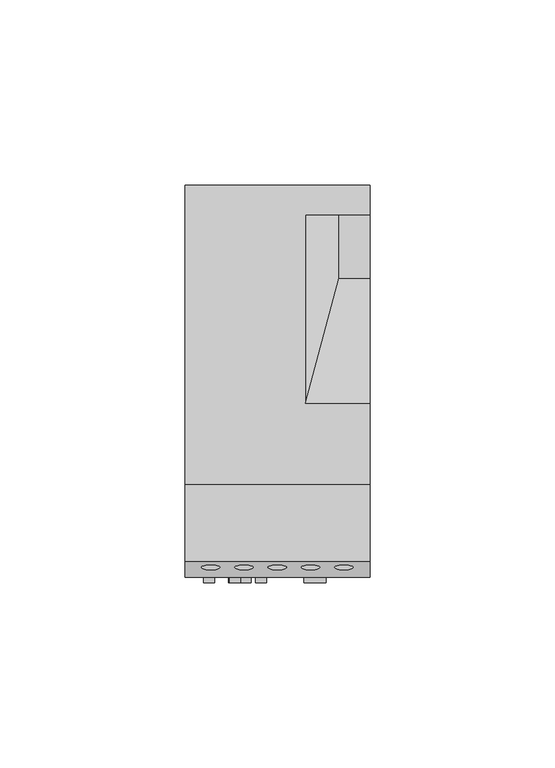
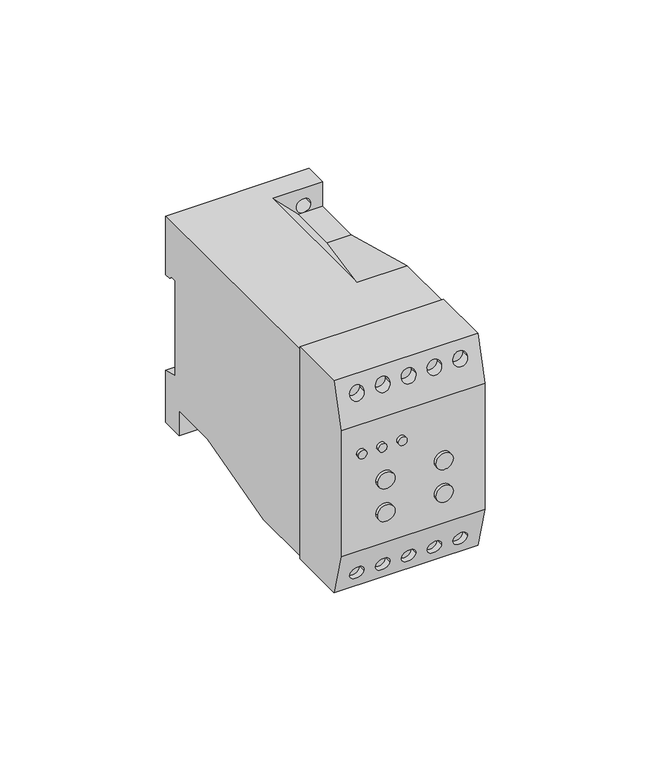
"""IFC4 building model written with IfcOpenShell, lengths in millimetres: proxy geometry, TDM_РЕЛЕ КОНТРОЛЯ ФАЗ СЕРИИ ЕЛ-11М : 3х380 В (1нр+1нз-контакты)."""

from ifc_helpers import new_model, si_unit, point, frame, frame_2d, origin, place, context, project, spatial, polyline, circle_curve, ellipse_curve, trimmed, segment, composite_curve, outline, extrude, source, transform, mapped, element, save
from ifc_brep_helpers import plane_surface, revolved_surface, advanced_brep


def electrical_equipment_a8593c03(model_context):
    return source(origin(), model_context, "Body", "SolidModel", [
        advanced_brep(
        [(25.0, -51.2650756, 39.0), (25.0, -55.5, 23.1950468), (25.0, -55.5, -23.1950468), (25.0, -51.2650756, -39.0), (25.0, -30.5, -39.0), (25.0, -30.5, 39.0), (-25.0, -51.2650756, 39.0), (-25.0, -30.5, 39.0), (-25.0, -30.5, -39.0), (-25.0, -51.2650756, -39.0), (-25.0, -55.5, -23.1950468), (-25.0, -55.5, 23.1950468), (2.5, -52.8552555, 33.0653679), (-2.5, -52.8552555, 33.0653679), (11.5, -52.8552555, 33.0653679), (6.5, -52.8552555, 33.0653679), (20.5, -52.8552555, 33.0653679), (15.5, -52.8552555, 33.0653679), (-11.5, -52.8552555, 33.0653679), (-6.5, -52.8552555, 33.0653679), (-20.5, -52.8552555, 33.0653679), (-15.5, -52.8552555, 33.0653679), (2.5, -52.8552555, -33.0653679), (-2.5, -52.8552555, -33.0653679), (11.5, -52.8552555, -33.0653679), (6.5, -52.8552555, -33.0653679), (20.5, -52.8552555, -33.0653679), (15.5, -52.8552555, -33.0653679), (-11.5, -52.8552555, -33.0653679), (-6.5, -52.8552555, -33.0653679), (-20.5, -52.8552555, -33.0653679), (-15.5, -52.8552555, -33.0653679), (-2.5, -49.1118547, -33.0653679), (2.5, -49.1118547, -33.0653679), (-2.5, -49.1118547, 33.0653679), (2.5, -49.1118547, 33.0653679), (6.5, -49.1118547, -33.0653679), (11.5, -49.1118547, -33.0653679), (6.5, -49.1118547, 33.0653679), (11.5, -49.1118547, 33.0653679), (15.5, -49.1118547, -33.0653679), (20.5, -49.1118547, -33.0653679), (15.5, -49.1118547, 33.0653679), (20.5, -49.1118547, 33.0653679), (-6.5, -49.1118547, -33.0653679), (-11.5, -49.1118547, -33.0653679), (-6.5, -49.1118547, 33.0653679), (-11.5, -49.1118547, 33.0653679), (-15.5, -49.1118547, -33.0653679), (-20.5, -49.1118547, -33.0653679), (-15.5, -49.1118547, 33.0653679), (-20.5, -49.1118547, 33.0653679)],
        [
            (0, 1),
            (1, 2),
            (2, 3),
            (3, 4),
            (4, 5),
            (5, 0),
            (6, 7),
            (7, 8),
            (8, 9),
            (9, 10),
            (10, 11),
            (11, 6),
            (0, 6),
            (11, 1),
            (12, 13, ellipse_curve(frame((0.0, -52.8552555, 33.0653679), z_axis=(0.0, 0.9659258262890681, -0.2588190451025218), x_axis=(0.0, -0.25881904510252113, -0.9659258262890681)), 2.5881905, 2.5)),
            (13, 12, ellipse_curve(frame((0.0, -52.8552555, 33.0653679), z_axis=(0.0, 0.9659258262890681, -0.2588190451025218), x_axis=(0.0, -0.25881904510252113, -0.9659258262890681)), 2.5881905, 2.5)),
            (14, 15, ellipse_curve(frame((9.0, -52.8552555, 33.0653679), z_axis=(0.0, 0.9659258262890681, -0.2588190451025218), x_axis=(0.0, -0.25881904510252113, -0.9659258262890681)), 2.5881905, 2.5)),
            (15, 14, ellipse_curve(frame((9.0, -52.8552555, 33.0653679), z_axis=(0.0, 0.9659258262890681, -0.2588190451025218), x_axis=(0.0, -0.25881904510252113, -0.9659258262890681)), 2.5881905, 2.5)),
            (16, 17, ellipse_curve(frame((18.0, -52.8552555, 33.0653679), z_axis=(0.0, 0.9659258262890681, -0.2588190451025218), x_axis=(0.0, -0.25881904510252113, -0.9659258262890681)), 2.5881905, 2.5)),
            (17, 16, ellipse_curve(frame((18.0, -52.8552555, 33.0653679), z_axis=(0.0, 0.9659258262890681, -0.2588190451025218), x_axis=(0.0, -0.25881904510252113, -0.9659258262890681)), 2.5881905, 2.5)),
            (18, 19, ellipse_curve(frame((-9.0, -52.8552555, 33.0653679), z_axis=(0.0, 0.9659258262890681, -0.2588190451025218), x_axis=(0.0, -0.25881904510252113, -0.9659258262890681)), 2.5881905, 2.5)),
            (19, 18, ellipse_curve(frame((-9.0, -52.8552555, 33.0653679), z_axis=(0.0, 0.9659258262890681, -0.2588190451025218), x_axis=(0.0, -0.25881904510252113, -0.9659258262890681)), 2.5881905, 2.5)),
            (20, 21, ellipse_curve(frame((-18.0, -52.8552555, 33.0653679), z_axis=(0.0, 0.9659258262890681, -0.2588190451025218), x_axis=(0.0, -0.25881904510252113, -0.9659258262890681)), 2.5881905, 2.5)),
            (21, 20, ellipse_curve(frame((-18.0, -52.8552555, 33.0653679), z_axis=(0.0, 0.9659258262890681, -0.2588190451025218), x_axis=(0.0, -0.25881904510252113, -0.9659258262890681)), 2.5881905, 2.5)),
            (10, 2),
            (9, 3),
            (22, 23, ellipse_curve(frame((0.0, -52.8552555, -33.0653679), z_axis=(0.0, 0.9659258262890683, 0.25881904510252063), x_axis=(0.0, -0.2588190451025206, 0.9659258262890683)), 2.5881905, 2.5)),
            (23, 22, ellipse_curve(frame((0.0, -52.8552555, -33.0653679), z_axis=(0.0, 0.9659258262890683, 0.25881904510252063), x_axis=(0.0, -0.2588190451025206, 0.9659258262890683)), 2.5881905, 2.5)),
            (24, 25, ellipse_curve(frame((9.0, -52.8552555, -33.0653679), z_axis=(0.0, 0.9659258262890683, 0.25881904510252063), x_axis=(0.0, -0.2588190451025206, 0.9659258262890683)), 2.5881905, 2.5)),
            (25, 24, ellipse_curve(frame((9.0, -52.8552555, -33.0653679), z_axis=(0.0, 0.9659258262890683, 0.25881904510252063), x_axis=(0.0, -0.2588190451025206, 0.9659258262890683)), 2.5881905, 2.5)),
            (26, 27, ellipse_curve(frame((18.0, -52.8552555, -33.0653679), z_axis=(0.0, 0.9659258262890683, 0.25881904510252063), x_axis=(0.0, -0.2588190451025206, 0.9659258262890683)), 2.5881905, 2.5)),
            (27, 26, ellipse_curve(frame((18.0, -52.8552555, -33.0653679), z_axis=(0.0, 0.9659258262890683, 0.25881904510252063), x_axis=(0.0, -0.2588190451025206, 0.9659258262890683)), 2.5881905, 2.5)),
            (28, 29, ellipse_curve(frame((-9.0, -52.8552555, -33.0653679), z_axis=(0.0, 0.9659258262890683, 0.25881904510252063), x_axis=(0.0, -0.2588190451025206, 0.9659258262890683)), 2.5881905, 2.5)),
            (29, 28, ellipse_curve(frame((-9.0, -52.8552555, -33.0653679), z_axis=(0.0, 0.9659258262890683, 0.25881904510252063), x_axis=(0.0, -0.2588190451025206, 0.9659258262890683)), 2.5881905, 2.5)),
            (30, 31, ellipse_curve(frame((-18.0, -52.8552555, -33.0653679), z_axis=(0.0, 0.9659258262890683, 0.25881904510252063), x_axis=(0.0, -0.2588190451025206, 0.9659258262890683)), 2.5881905, 2.5)),
            (31, 30, ellipse_curve(frame((-18.0, -52.8552555, -33.0653679), z_axis=(0.0, 0.9659258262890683, 0.25881904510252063), x_axis=(0.0, -0.2588190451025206, 0.9659258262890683)), 2.5881905, 2.5)),
            (8, 4),
            (7, 5),
            (32, 33, circle_curve(frame((0.0, -49.1118547, -33.0653679), z_axis=(0.0, -1.0, 0.0), x_axis=(1.0, 0.0, 0.0)), 2.5)),
            (33, 32, circle_curve(frame((0.0, -49.1118547, -33.0653679), z_axis=(0.0, -1.0, 0.0), x_axis=(1.0, 0.0, 0.0)), 2.5)),
            (34, 35, circle_curve(frame((0.0, -49.1118547, 33.0653679), z_axis=(0.0, -1.0, 0.0), x_axis=(1.0, 0.0, 0.0)), 2.5)),
            (35, 34, circle_curve(frame((0.0, -49.1118547, 33.0653679), z_axis=(0.0, -1.0, 0.0), x_axis=(1.0, 0.0, 0.0)), 2.5)),
            (36, 37, circle_curve(frame((9.0, -49.1118547, -33.0653679), z_axis=(0.0, -1.0, 0.0), x_axis=(1.0, 0.0, 0.0)), 2.5)),
            (37, 36, circle_curve(frame((9.0, -49.1118547, -33.0653679), z_axis=(0.0, -1.0, 0.0), x_axis=(1.0, 0.0, 0.0)), 2.5)),
            (38, 39, circle_curve(frame((9.0, -49.1118547, 33.0653679), z_axis=(0.0, -1.0, 0.0), x_axis=(1.0, 0.0, 0.0)), 2.5)),
            (39, 38, circle_curve(frame((9.0, -49.1118547, 33.0653679), z_axis=(0.0, -1.0, 0.0), x_axis=(1.0, 0.0, 0.0)), 2.5)),
            (40, 41, circle_curve(frame((18.0, -49.1118547, -33.0653679), z_axis=(0.0, -1.0, 0.0), x_axis=(1.0, 0.0, 0.0)), 2.5)),
            (41, 40, circle_curve(frame((18.0, -49.1118547, -33.0653679), z_axis=(0.0, -1.0, 0.0), x_axis=(1.0, 0.0, 0.0)), 2.5)),
            (42, 43, circle_curve(frame((18.0, -49.1118547, 33.0653679), z_axis=(0.0, -1.0, 0.0), x_axis=(1.0, 0.0, 0.0)), 2.5)),
            (43, 42, circle_curve(frame((18.0, -49.1118547, 33.0653679), z_axis=(0.0, -1.0, 0.0), x_axis=(1.0, 0.0, 0.0)), 2.5)),
            (44, 45, circle_curve(frame((-9.0, -49.1118547, -33.0653679), z_axis=(0.0, -1.0, 0.0), x_axis=(-1.0, 0.0, 0.0)), 2.5)),
            (45, 44, circle_curve(frame((-9.0, -49.1118547, -33.0653679), z_axis=(0.0, -1.0, 0.0), x_axis=(-1.0, 0.0, 0.0)), 2.5)),
            (46, 47, circle_curve(frame((-9.0, -49.1118547, 33.0653679), z_axis=(0.0, -1.0, 0.0), x_axis=(-1.0, 0.0, 0.0)), 2.5)),
            (47, 46, circle_curve(frame((-9.0, -49.1118547, 33.0653679), z_axis=(0.0, -1.0, 0.0), x_axis=(-1.0, 0.0, 0.0)), 2.5)),
            (48, 49, circle_curve(frame((-18.0, -49.1118547, -33.0653679), z_axis=(0.0, -1.0, 0.0), x_axis=(-1.0, 0.0, 0.0)), 2.5)),
            (49, 48, circle_curve(frame((-18.0, -49.1118547, -33.0653679), z_axis=(0.0, -1.0, 0.0), x_axis=(-1.0, 0.0, 0.0)), 2.5)),
            (50, 51, circle_curve(frame((-18.0, -49.1118547, 33.0653679), z_axis=(0.0, -1.0, 0.0), x_axis=(-1.0, 0.0, 0.0)), 2.5)),
            (51, 50, circle_curve(frame((-18.0, -49.1118547, 33.0653679), z_axis=(0.0, -1.0, 0.0), x_axis=(-1.0, 0.0, 0.0)), 2.5)),
            (32, 23),
            (22, 33),
            (34, 13),
            (12, 35),
            (36, 25),
            (24, 37),
            (38, 15),
            (14, 39),
            (40, 27),
            (26, 41),
            (42, 17),
            (16, 43),
            (44, 29),
            (28, 45),
            (46, 19),
            (18, 47),
            (48, 31),
            (30, 49),
            (50, 21),
            (20, 51),
        ],
        [
            plane_surface(frame((25.0, -51.2650756, 39.0), z_axis=(1.0000000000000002, 0.0, 0.0), x_axis=(0.0, -0.2588190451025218, -0.9659258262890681))),
            plane_surface(frame((-25.0, -51.2650756, 39.0), z_axis=(-1.0000000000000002, 0.0, 0.0), x_axis=(0.0, 0.2588190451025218, 0.9659258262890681))),
            plane_surface(frame((25.0, -51.2650756, 39.0), z_axis=(0.0, -0.9659258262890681, 0.2588190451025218), x_axis=(-1.0, 0.0, 0.0))),
            plane_surface(frame((25.0, -55.5, 23.1950468), z_axis=(0.0, -1.0, 0.0), x_axis=(-1.0, 0.0, 0.0))),
            plane_surface(frame((25.0, -55.5, -23.1950468), z_axis=(0.0, -0.9659258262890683, -0.25881904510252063), x_axis=(-1.0, 0.0, 0.0))),
            plane_surface(frame((25.0, -51.2650756, -39.0), z_axis=(0.0, 0.0, -1.0), x_axis=(-1.0, 0.0, 0.0))),
            plane_surface(frame((25.0, -30.5, -39.0), z_axis=(0.0, 1.0, 0.0), x_axis=(-1.0, 0.0, 0.0))),
            plane_surface(frame((25.0, -30.5, 39.0), z_axis=(0.0, 0.0, 1.0), x_axis=(-1.0, 0.0, 0.0))),
            plane_surface(frame((2.5, -49.1118547, -33.0653679), z_axis=(0.0, -1.0, 0.0), x_axis=(0.0, 0.0, -1.0))),
            revolved_surface(polyline([(2.5, -53.525128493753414, -33.0653679), (2.5, -49.1118547, -33.0653679)]), (0.0, -49.1118547, -33.0653679), (0.0, -1.0, 0.0)),
            revolved_surface(polyline([(2.5, -53.525128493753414, 33.0653679), (2.5, -49.1118547, 33.0653679)]), (0.0, 0.0, 33.0653679), (0.0, -1.0, 0.0)),
            revolved_surface(polyline([(11.5, -53.525128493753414, -33.0653679), (11.5, -49.1118547, -33.0653679)]), (9.0, 0.0, -33.0653679), (0.0, -1.0, 0.0)),
            revolved_surface(polyline([(11.5, -53.525128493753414, 33.0653679), (11.5, -49.1118547, 33.0653679)]), (9.0, 0.0, 33.0653679), (0.0, -1.0, 0.0)),
            revolved_surface(polyline([(20.5, -53.525128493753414, -33.0653679), (20.5, -49.1118547, -33.0653679)]), (18.0, 0.0, -33.0653679), (0.0, -1.0, 0.0)),
            revolved_surface(polyline([(20.5, -53.525128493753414, 33.0653679), (20.5, -49.1118547, 33.0653679)]), (18.0, 0.0, 33.0653679), (0.0, -1.0, 0.0)),
            revolved_surface(polyline([(-11.5, -53.525128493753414, -33.0653679), (-11.5, -49.1118547, -33.0653679)]), (-9.0, 0.0, -33.0653679), (0.0, -1.0, 0.0)),
            revolved_surface(polyline([(-11.5, -53.525128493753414, 33.0653679), (-11.5, -49.1118547, 33.0653679)]), (-9.0, 0.0, 33.0653679), (0.0, -1.0, 0.0)),
            revolved_surface(polyline([(-20.5, -53.525128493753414, -33.0653679), (-20.5, -49.1118547, -33.0653679)]), (-18.0, 0.0, -33.0653679), (0.0, -1.0, 0.0)),
            revolved_surface(polyline([(-20.5, -53.525128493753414, 33.0653679), (-20.5, -49.1118547, 33.0653679)]), (-18.0, 0.0, 33.0653679), (0.0, -1.0, 0.0)),
        ],
        [
            (0, [[1, 2, 3, 4, 5, 6]]),
            (1, [[7, 8, 9, 10, 11, 12]]),
            (2, [[-1, 13, -12, 14], [15, 16], [17, 18], [19, 20], [21, 22], [23, 24]]),
            (3, [[-2, -14, -11, 25]]),
            (4, [[-3, -25, -10, 26], [27, 28], [29, 30], [31, 32], [33, 34], [35, 36]]),
            (5, [[-4, -26, -9, 37]]),
            (6, [[-5, -37, -8, 38]]),
            (7, [[-6, -38, -7, -13]]),
            (8, [[39, 40]]),
            (8, [[41, 42]]),
            (8, [[43, 44]]),
            (8, [[45, 46]]),
            (8, [[47, 48]]),
            (8, [[49, 50]]),
            (8, [[51, 52]]),
            (8, [[53, 54]]),
            (8, [[55, 56]]),
            (8, [[57, 58]]),
            (9, [[-39, 59, -27, 60]]),
            (9, [[-40, -60, -28, -59]]),
            (10, [[-41, 61, -15, 62]]),
            (10, [[-42, -62, -16, -61]]),
            (11, [[-43, 63, -29, 64]]),
            (11, [[-44, -64, -30, -63]]),
            (12, [[-45, 65, -17, 66]]),
            (12, [[-46, -66, -18, -65]]),
            (13, [[-47, 67, -31, 68]]),
            (13, [[-48, -68, -32, -67]]),
            (14, [[-49, 69, -19, 70]]),
            (14, [[-50, -70, -20, -69]]),
            (15, [[-51, 71, -33, 72]]),
            (15, [[-52, -72, -34, -71]]),
            (16, [[-53, 73, -21, 74]]),
            (16, [[-54, -74, -22, -73]]),
            (17, [[-55, 75, -35, 76]]),
            (17, [[-56, -76, -36, -75]]),
            (18, [[-57, 77, -23, 78]]),
            (18, [[-58, -78, -24, -77]]),
        ],
    ),
        extrude(outline(polyline([(24.0, -40.0), (24.0, -50.5032876), (-24.0, -50.5032876), (-24.0, -40.0), (24.0, -40.0)])), frame((0.0, 0.0, -38.0), z_axis=(0.0, 0.0, 1.0), x_axis=(1.0, 0.0, 0.0)), (0.0, 0.0, 1.0), 76.0),
        advanced_brep(
        [(25.0, 42.5, 28.9336155), (25.0, 25.3071204, 28.9336155), (25.0, -8.5290871, 38.0), (25.0, -30.5, 38.0), (25.0, -30.5, -38.0), (25.0, 50.5, -38.0), (25.0, 50.5, -18.8314414), (25.0, 44.7632568, -17.2942857), (25.0, 44.7632568, 17.7057143), (25.0, 46.8853336, 17.7057143), (25.0, 48.2016607, 16.3893872), (25.0, 50.5, 16.3893872), (25.0, 50.5, 38.0), (25.0, 42.5, 38.0), (-25.0, 50.5, 38.0), (-25.0, 50.5, 16.3893872), (-25.0, 48.2016607, 16.3893872), (-25.0, 46.8853336, 17.7057143), (-25.0, 44.7632568, 17.7057143), (-25.0, 44.7632568, -17.2942857), (-25.0, 50.5, -18.8314414), (-25.0, 50.5, -38.0), (-25.0, 42.5, -38.0), (-25.0, 42.5, -28.9336155), (-25.0, 25.3071204, -28.9336155), (-25.0, -8.5290871, -38.0), (-25.0, -30.5, -38.0), (-25.0, -30.5, 38.0), (16.6624279, 42.5, 28.9336155), (16.6624279, 25.3071204, 28.9336155), (7.5960434, -8.5290871, 38.0), (7.5960434, 42.5, 38.0), (-7.3989842, -8.5290871, -38.0), (-7.3989842, 42.5, -38.0), (-15.9384302, 50.5, -31.5), (-20.9384302, 50.5, -31.5), (15.9384302, 50.5, 31.5), (20.9384302, 50.5, 31.5), (20.9384302, 42.5, 31.5), (15.9384302, 42.5, 31.5), (-16.4653687, 25.3071204, -28.9336155), (-16.4653687, 42.5, -28.9336155), (-20.9384302, 42.5, -31.5), (-15.9384302, 42.5, -31.5)],
        [
            (0, 1),
            (1, 2),
            (2, 3),
            (3, 4),
            (4, 5),
            (5, 6),
            (6, 7),
            (7, 8),
            (8, 9),
            (9, 10),
            (10, 11),
            (11, 12),
            (12, 13),
            (13, 0),
            (14, 15),
            (15, 16),
            (16, 17),
            (17, 18),
            (18, 19),
            (19, 20),
            (20, 21),
            (21, 22),
            (22, 23),
            (23, 24),
            (24, 25),
            (25, 26),
            (26, 27),
            (27, 14),
            (0, 28),
            (28, 29),
            (29, 1),
            (29, 30),
            (30, 2),
            (30, 31),
            (31, 13),
            (12, 14),
            (27, 3),
            (26, 4),
            (21, 5),
            (25, 32),
            (32, 33),
            (33, 22),
            (20, 6),
            (34, 35, circle_curve(frame((-18.4384302, 50.5, -31.5), z_axis=(0.0, -1.0, 0.0), x_axis=(-1.0, 0.0, 0.0)), 2.5)),
            (35, 34, circle_curve(frame((-18.4384302, 50.5, -31.5), z_axis=(0.0, -1.0, 0.0), x_axis=(-1.0, 0.0, 0.0)), 2.5)),
            (19, 7),
            (18, 8),
            (17, 9),
            (16, 10),
            (15, 11),
            (36, 37, circle_curve(frame((18.4384302, 50.5, 31.5), z_axis=(0.0, -1.0, 0.0), x_axis=(1.0, 0.0, 0.0)), 2.5)),
            (37, 36, circle_curve(frame((18.4384302, 50.5, 31.5), z_axis=(0.0, -1.0, 0.0), x_axis=(1.0, 0.0, 0.0)), 2.5)),
            (31, 28),
            (38, 39, circle_curve(frame((18.4384302, 42.5, 31.5), z_axis=(0.0, 1.0, 0.0), x_axis=(1.0, 0.0, 0.0)), 2.5)),
            (39, 38, circle_curve(frame((18.4384302, 42.5, 31.5), z_axis=(0.0, 1.0, 0.0), x_axis=(1.0, 0.0, 0.0)), 2.5)),
            (24, 40),
            (40, 32),
            (23, 41),
            (41, 40),
            (33, 41),
            (42, 43, circle_curve(frame((-18.4384302, 42.5, -31.5), z_axis=(0.0, 1.0, 0.0), x_axis=(-1.0, 0.0, 0.0)), 2.5)),
            (43, 42, circle_curve(frame((-18.4384302, 42.5, -31.5), z_axis=(0.0, 1.0, 0.0), x_axis=(-1.0, 0.0, 0.0)), 2.5)),
            (38, 37),
            (36, 39),
            (42, 35),
            (34, 43),
        ],
        [
            plane_surface(frame((25.0, 42.5, 28.9336155), z_axis=(1.0, 0.0, 0.0), x_axis=(0.0, -1.0, 0.0))),
            plane_surface(frame((-25.0, 42.5, 28.9336155), z_axis=(-1.0, 0.0, 0.0), x_axis=(0.0, 1.0, 0.0))),
            plane_surface(frame((25.0, 42.5, 28.9336155), z_axis=(0.0, 0.0, 1.0), x_axis=(-1.0, 0.0, 0.0))),
            plane_surface(frame((25.0, 25.3071204, 28.9336155), z_axis=(0.0, 0.258819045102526, 0.9659258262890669), x_axis=(-1.0, 0.0, 0.0))),
            plane_surface(frame((25.0, -8.5290871, 38.0), z_axis=(0.0, 0.0, 1.0), x_axis=(-1.0, 0.0, 0.0))),
            plane_surface(frame((25.0, -30.5, 38.0), z_axis=(0.0, -1.0, 0.0), x_axis=(-1.0, 0.0, 0.0))),
            plane_surface(frame((25.0, -30.5, -38.0), z_axis=(0.0, 0.0, -1.0), x_axis=(-1.0, 0.0, 0.0))),
            plane_surface(frame((25.0, 50.5, -38.0), z_axis=(0.0, 1.0, 0.0), x_axis=(-1.0, 0.0, 0.0))),
            plane_surface(frame((25.0, 50.5, -18.8314414), z_axis=(0.0, 0.25881904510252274, 0.9659258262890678), x_axis=(-1.0, 0.0, 0.0))),
            plane_surface(frame((25.0, 44.7632568, -17.2942857), z_axis=(0.0, 1.0, 0.0), x_axis=(-1.0, 0.0, 0.0))),
            plane_surface(frame((25.0, 44.7632568, 17.7057143), z_axis=(0.0, 0.0, -1.0), x_axis=(-1.0, 0.0, 0.0))),
            plane_surface(frame((25.0, 46.8853336, 17.7057143), z_axis=(0.0, -0.7071067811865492, -0.7071067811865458), x_axis=(-1.0, 0.0, 0.0))),
            plane_surface(frame((25.0, 48.2016607, 16.3893872), z_axis=(0.0, 0.0, -1.0), x_axis=(-1.0, 0.0, 0.0))),
            plane_surface(frame((25.0, 50.5, 16.3893872), z_axis=(0.0, 1.0, 0.0), x_axis=(-1.0, 0.0, 0.0))),
            plane_surface(frame((25.0, 42.5, 38.0), z_axis=(0.0, -1.0, 0.0), x_axis=(-1.0, 0.0, 0.0))),
            plane_surface(frame((25.0, -8.5290871, -38.0), z_axis=(0.0, 0.2588190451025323, -0.9659258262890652), x_axis=(-1.0, 0.0, 0.0))),
            plane_surface(frame((25.0, 25.3071204, -28.9336155), z_axis=(0.0, 0.0, -1.0), x_axis=(-1.0, 0.0, 0.0))),
            plane_surface(frame((25.0, 42.5, -28.9336155), z_axis=(0.0, -1.0, 0.0), x_axis=(-1.0, 0.0, 0.0))),
            plane_surface(frame((25.0, -20.058113, 20.5960434), z_axis=(0.7071067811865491, 0.0, 0.7071067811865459), x_axis=(0.0, 1.0, 0.0))),
            plane_surface(frame((-25.0, -20.058113, -20.3989842), z_axis=(-0.7071067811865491, 0.0, -0.707106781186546), x_axis=(0.0, 1.0, 0.0))),
            revolved_surface(polyline([(20.9384302, 42.5, 31.5), (20.9384302, 50.5, 31.5)]), (18.4384302, 50.5, 31.5), (0.0, -1.0, 0.0)),
            revolved_surface(polyline([(-20.9384302, 42.5, -31.5), (-20.9384302, 50.5, -31.5)]), (-18.4384302, 0.0, -31.5), (0.0, -1.0, 0.0)),
        ],
        [
            (0, [[1, 2, 3, 4, 5, 6, 7, 8, 9, 10, 11, 12, 13, 14]]),
            (1, [[15, 16, 17, 18, 19, 20, 21, 22, 23, 24, 25, 26, 27, 28]]),
            (2, [[-1, 29, 30, 31]]),
            (3, [[-2, -31, 32, 33]]),
            (4, [[-3, -33, 34, 35, -13, 36, -28, 37]]),
            (5, [[-4, -37, -27, 38]]),
            (6, [[-22, 39, -5, -38, -26, 40, 41, 42]]),
            (7, [[-6, -39, -21, 43], [44, 45]]),
            (8, [[-7, -43, -20, 46]]),
            (9, [[-8, -46, -19, 47]]),
            (10, [[-9, -47, -18, 48]]),
            (11, [[-10, -48, -17, 49]]),
            (12, [[-11, -49, -16, 50]]),
            (13, [[-12, -50, -15, -36], [51, 52]]),
            (14, [[-14, -35, 53, -29], [54, 55]]),
            (15, [[-25, 56, 57, -40]]),
            (16, [[-24, 58, 59, -56]]),
            (17, [[-23, -42, 60, -58], [61, 62]]),
            (18, [[-34, -32, -30, -53]]),
            (19, [[-41, -57, -59, -60]]),
            (20, [[63, -51, 64, -54]]),
            (20, [[-63, -55, -64, -52]]),
            (21, [[65, -44, 66, -61]]),
            (21, [[-65, -62, -66, -45]]),
        ],
    ),
        extrude(outline(composite_curve([segment(trimmed(circle_curve(frame_2d((13.0618959, -11.40625)), 1.5), [point((13.0618959, -12.90625))], [point((13.0618959, -9.90625))], False, "CARTESIAN"), True, "CONTINUOUS"), segment(trimmed(circle_curve(frame_2d((13.0618959, -11.40625)), 1.5), [point((13.0618959, -9.90625))], [point((13.0618959, -12.90625))], False, "CARTESIAN"), True, "CONTINUOUS")], self_intersect=False)), frame((0.0, -57.034684, 0.0), z_axis=(0.0, 1.0, 0.0), x_axis=(0.0, 0.0, 1.0)), (0.0, 0.0, 1.0), 1.534684),
        extrude(outline(composite_curve([segment(trimmed(circle_curve(frame_2d((13.0618959, -18.40625)), 1.5), [point((13.0618959, -19.90625))], [point((13.0618959, -16.90625))], False, "CARTESIAN"), True, "CONTINUOUS"), segment(trimmed(circle_curve(frame_2d((13.0618959, -18.40625)), 1.5), [point((13.0618959, -16.90625))], [point((13.0618959, -19.90625))], False, "CARTESIAN"), True, "CONTINUOUS")], self_intersect=False)), frame((0.0, -57.034684, 0.0), z_axis=(0.0, 1.0, 0.0), x_axis=(0.0, 0.0, 1.0)), (0.0, 0.0, 1.0), 1.534684),
        extrude(outline(composite_curve([segment(trimmed(circle_curve(frame_2d((13.0618959, -4.40625)), 1.5), [point((13.0618959, -2.90625))], [point((13.0618959, -5.90625))], False, "CARTESIAN"), True, "CONTINUOUS"), segment(trimmed(circle_curve(frame_2d((13.0618959, -4.40625)), 1.5), [point((13.0618959, -5.90625))], [point((13.0618959, -2.90625))], False, "CARTESIAN"), True, "CONTINUOUS")], self_intersect=False)), frame((0.0, -57.034684, 0.0), z_axis=(0.0, 1.0, 0.0), x_axis=(0.0, 0.0, 1.0)), (0.0, 0.0, 1.0), 1.534684),
        extrude(outline(composite_curve([segment(trimmed(circle_curve(frame_2d((-11.3756041, -10.15625)), 3.0), [point((-11.3756041, -13.15625))], [point((-11.3756041, -7.15625))], False, "CARTESIAN"), True, "CONTINUOUS"), segment(trimmed(circle_curve(frame_2d((-11.3756041, -10.15625)), 3.0), [point((-11.3756041, -7.15625))], [point((-11.3756041, -13.15625))], False, "CARTESIAN"), True, "CONTINUOUS")], self_intersect=False)), frame((0.0, -57.034684, 0.0), z_axis=(0.0, 1.0, 0.0), x_axis=(0.0, 0.0, 1.0)), (0.0, 0.0, 1.0), 1.534684),
        extrude(outline(composite_curve([segment(trimmed(circle_curve(frame_2d((0.625, -10.15625)), 3.0), [point((0.625, -13.15625))], [point((0.625, -7.15625))], False, "CARTESIAN"), True, "CONTINUOUS"), segment(trimmed(circle_curve(frame_2d((0.625, -10.15625)), 3.0), [point((0.625, -7.15625))], [point((0.625, -13.15625))], False, "CARTESIAN"), True, "CONTINUOUS")], self_intersect=False)), frame((0.0, -57.034684, 0.0), z_axis=(0.0, 1.0, 0.0), x_axis=(0.0, 0.0, 1.0)), (0.0, 0.0, 1.0), 1.534684),
        extrude(outline(composite_curve([segment(trimmed(circle_curve(frame_2d((-11.3756041, 10.15625)), 3.0), [point((-11.3756041, 13.15625))], [point((-11.3756041, 7.15625))], False, "CARTESIAN"), True, "CONTINUOUS"), segment(trimmed(circle_curve(frame_2d((-11.3756041, 10.15625)), 3.0), [point((-11.3756041, 7.15625))], [point((-11.3756041, 13.15625))], False, "CARTESIAN"), True, "CONTINUOUS")], self_intersect=False)), frame((0.0, -57.034684, 0.0), z_axis=(0.0, 1.0, 0.0), x_axis=(0.0, 0.0, 1.0)), (0.0, 0.0, 1.0), 1.534684),
        extrude(outline(composite_curve([segment(trimmed(circle_curve(frame_2d((0.625, 10.15625)), 3.0), [point((0.625, 13.15625))], [point((0.625, 7.15625))], False, "CARTESIAN"), True, "CONTINUOUS"), segment(trimmed(circle_curve(frame_2d((0.625, 10.15625)), 3.0), [point((0.625, 7.15625))], [point((0.625, 13.15625))], False, "CARTESIAN"), True, "CONTINUOUS")], self_intersect=False)), frame((0.0, -57.034684, 0.0), z_axis=(0.0, 1.0, 0.0), x_axis=(0.0, 0.0, 1.0)), (0.0, 0.0, 1.0), 1.534684),
    ])


if __name__ == "__main__":
    model = new_model("IFC4")
    model_context = context("Model", 3, world=origin())
    ifc_project = project(units=[si_unit("LENGTHUNIT", "METRE", prefix="MILLI")], contexts=[model_context])
    site = spatial("IfcSite", under=ifc_project)
    building = spatial("IfcBuilding", under=site)
    placement = place(None, origin())
    electrical_equipment_shape = electrical_equipment_a8593c03(model_context)
    element("IfcBuildingElementProxy", 1, Name="TDM_РЕЛЕ КОНТРОЛЯ ФАЗ СЕРИИ ЕЛ-11М : 3х380 В (1нр+1нз-контакты)", ObjectType="TDM_РЕЛЕ КОНТРОЛЯ ФАЗ СЕРИИ ЕЛ-11М : 3х380 В (1нр+1нз-контакты)", at=placement, inside=building, context=model_context, shape_type="MappedRepresentation", body=[
        mapped(electrical_equipment_shape, transform((0.0, 0.0, 0.0), x_axis=(1.0, 0.0, 0.0), y_axis=(0.0, 1.0, 0.0), z_axis=(0.0, 0.0, 1.0))),
    ])
    save(model, "model.ifc")
